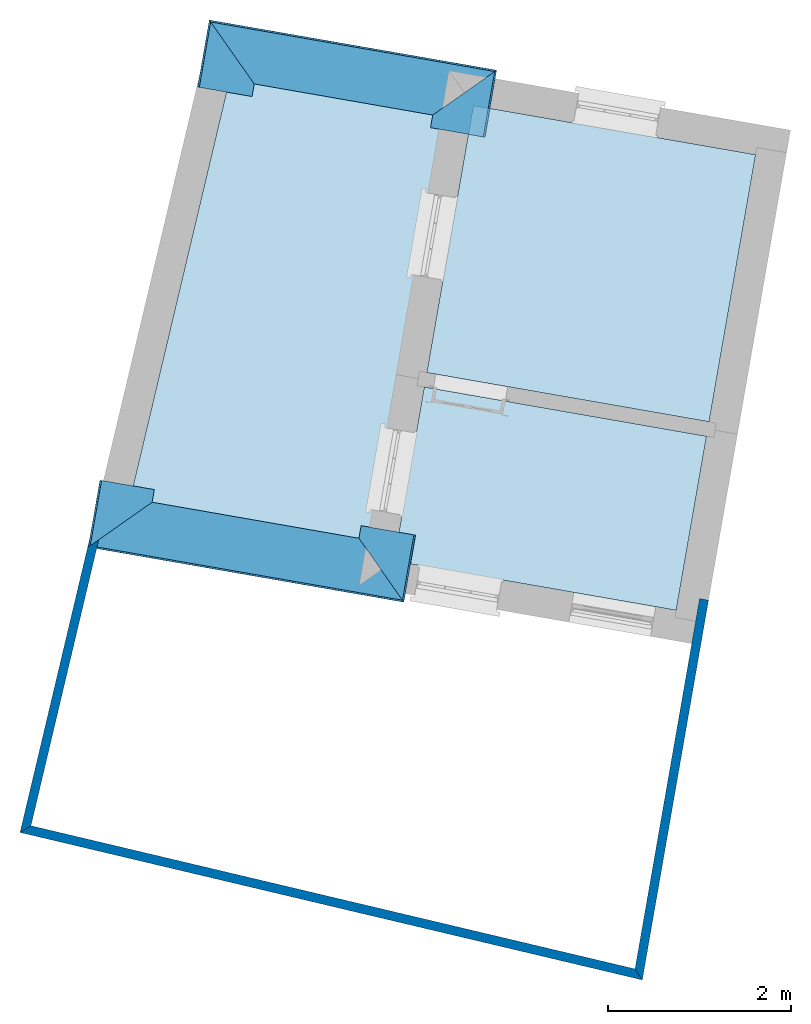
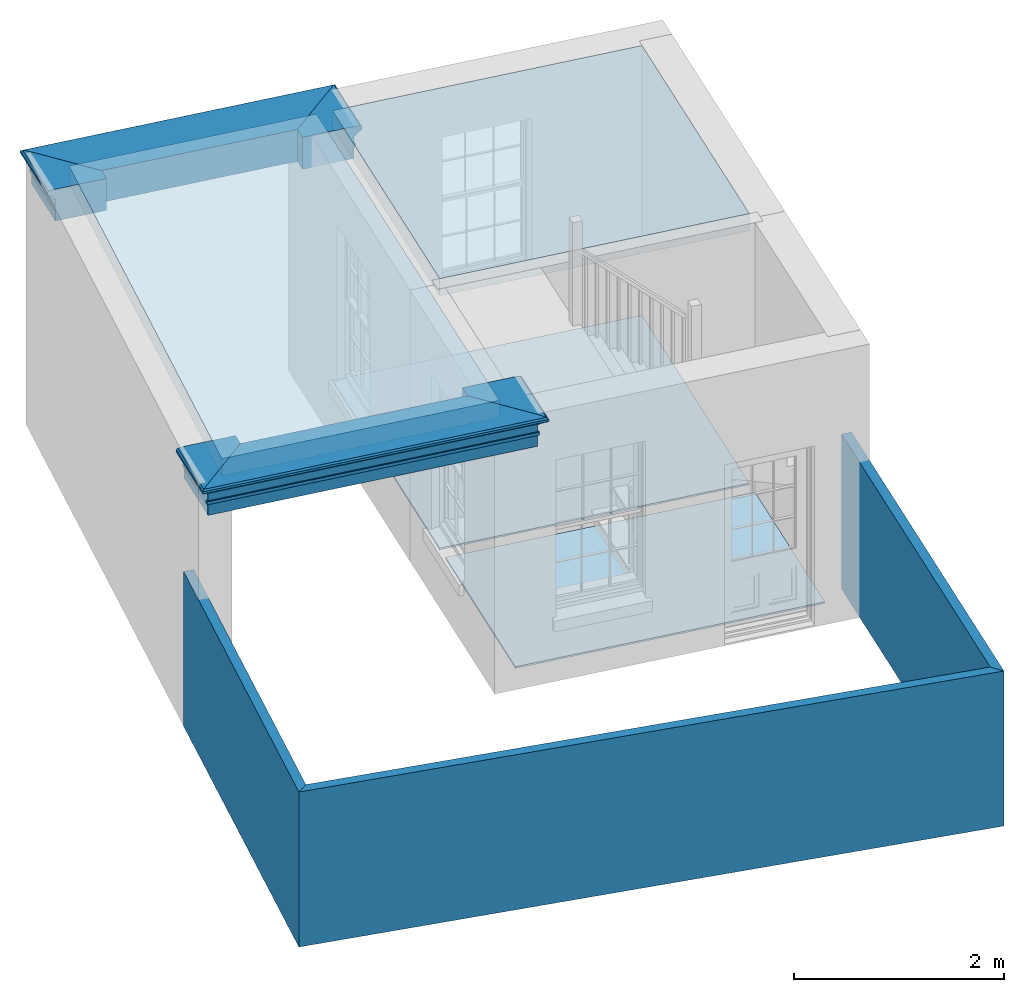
# One storey, part 1 of 4: 6 beams, 4 slabs, 3 walls.
"""IFC4 building model written with IfcOpenShell, lengths in metres."""

from ifc_helpers import new_model, si_unit, frame, origin_with_axes, place, context, subcontext, project, spatial, polyline, outline, extrude, clip, halfspace, material, layer, layer_set, layer_usage, material_profile, profile_set, profile_usage, type_object, element, save


model = new_model("IFC4")

# Units and contexts
model_context = context("Model", 3, world=origin_with_axes())
body_context = subcontext(model_context, "Body", "Model", "MODEL_VIEW")
ifc_project = project(units=[si_unit("PLANEANGLEUNIT", "RADIAN"), si_unit("MASSUNIT", "GRAM", prefix="KILO"), si_unit("FORCEUNIT", "NEWTON", prefix="KILO"), si_unit("LENGTHUNIT", "METRE"), si_unit("AREAUNIT", "SQUARE_METRE"), si_unit("VOLUMEUNIT", "CUBIC_METRE")], contexts=[model_context, model_context])

# Sites, building, storey
site_1_placement = place(None, origin_with_axes())
site_1 = spatial("IfcSite", under=ifc_project, at=site_1_placement, Name="Tamar")
site_2_placement = place(site_1_placement, origin_with_axes())
site_2 = spatial("IfcSite", under=site_1, at=site_2_placement, Name="Site plot-26", CompositionType="ELEMENT")
building_placement = place(None, origin_with_axes())
building = spatial("IfcBuilding", under=site_2, at=building_placement, Name="Building plot-26", CompositionType="ELEMENT")
storey_placement = place(None, frame((0.0, 0.0, 26.0), z_axis=(0.0, 0.0, 1.0), x_axis=(1.0, 0.0, 0.0)))
storey = spatial("IfcBuildingStorey", under=building, at=storey_placement, Name="plot-26 0", CompositionType="ELEMENT", Elevation=26.0)

# Beams
ifc_material_profile_1 = material_profile(None, outline(polyline([(-0.26, 0.0), (-0.26, -0.37), (0.26, -0.37), (0.26, -0.235), (0.275, -0.235), (0.275, -0.2), (0.26, -0.2), (0.26, -0.11), (0.275, -0.11), (0.278, -0.098), (0.284, -0.089), (0.293, -0.083), (0.305, -0.08), (0.305, -0.065), (0.315, -0.065), (0.326, -0.063), (0.336, -0.056), (0.343, -0.047), (0.345, -0.035), (0.343, -0.023), (0.336, -0.014), (0.326, -0.007), (0.315, -0.005), (0.26, 0.0), (-0.26, 0.0)])))
ifc_profile_set_1 = profile_set([ifc_material_profile_1])
ifc_profile_usage_1 = profile_usage(ifc_profile_set_1)
beam_type_1 = type_object("IfcBeamType", Name="external beam_0", PredefinedType="NOTDEFINED", material=ifc_profile_set_1)
beam_1_placement = place(storey_placement, frame((284.428171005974, 270.360319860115, 3.15), z_axis=(0.171788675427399, 0.985133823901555, 0.0), x_axis=(-0.985133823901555, 0.171788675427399, 0.0)))
element("IfcBeam", 1, at=beam_1_placement, inside=storey, type_object=beam_type_1, material=ifc_profile_usage_1, Name="external beam_0", context=body_context, shape_type="Clipping", body=[
    clip(clip(extrude(outline(polyline([(-0.26, 0.0), (-0.26, -0.37), (0.26, -0.37), (0.26, -0.235), (0.275, -0.235), (0.275, -0.2), (0.26, -0.2), (0.26, -0.11), (0.275, -0.11), (0.278, -0.098), (0.284, -0.089), (0.293, -0.083), (0.305, -0.08), (0.305, -0.065), (0.315, -0.065), (0.326, -0.063), (0.336, -0.056), (0.343, -0.047), (0.345, -0.035), (0.343, -0.023), (0.336, -0.014), (0.326, -0.007), (0.315, -0.005), (0.26, 0.0), (-0.26, 0.0)])), origin_with_axes(), (0.0, 0.0, 1.0), 2.39999999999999), halfspace(frame((0.0, 0.0, 1.39999999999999), z_axis=(2.21432281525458e-14, 0.0, -1.0), x_axis=(0.0, 1.0, 0.0)), True)), halfspace(frame((0.0, 0.0, 1.0), z_axis=(-0.707106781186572, 0.0, -0.707106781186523), x_axis=(0.0, 1.0, 0.0)), False)),
])
ifc_profile_usage_2 = profile_usage(ifc_profile_set_1)
beam_2_placement = place(storey_placement, frame((288.360380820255, 270.689707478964, 3.15), z_axis=(-0.985133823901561, 0.171788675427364, 0.0), x_axis=(-0.171788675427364, -0.985133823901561, 0.0)))
element("IfcBeam", 2, at=beam_2_placement, inside=storey, type_object=beam_type_1, material=ifc_profile_usage_2, Name="external beam_0", context=body_context, shape_type="Clipping", body=[
    clip(clip(extrude(outline(polyline([(-0.26, 0.0), (-0.26, -0.37), (0.26, -0.37), (0.26, -0.235), (0.275, -0.235), (0.275, -0.2), (0.26, -0.2), (0.26, -0.11), (0.275, -0.11), (0.278, -0.098), (0.284, -0.089), (0.293, -0.083), (0.305, -0.08), (0.305, -0.065), (0.315, -0.065), (0.326, -0.063), (0.336, -0.056), (0.343, -0.047), (0.345, -0.035), (0.343, -0.023), (0.336, -0.014), (0.326, -0.007), (0.315, -0.005), (0.26, 0.0), (-0.26, 0.0)])), origin_with_axes(), (0.0, 0.0, 1.0), 4.81716782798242), halfspace(frame((0.0, 0.0, 3.81716782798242), z_axis=(0.70710678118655, 0.0, -0.707106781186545), x_axis=(0.0, 1.0, 0.0)), True)), halfspace(frame((0.0, 0.0, 1.0), z_axis=(-0.707106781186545, 0.0, -0.70710678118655), x_axis=(0.0, 1.0, 0.0)), False)),
])
ifc_profile_usage_3 = profile_usage(ifc_profile_set_1)
beam_3_placement = place(storey_placement, frame((287.615751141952, 272.240683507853, 3.15), z_axis=(-0.171788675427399, -0.985133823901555, 0.0), x_axis=(0.985133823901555, -0.171788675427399, 0.0)))
element("IfcBeam", 3, at=beam_3_placement, inside=storey, type_object=beam_type_1, material=ifc_profile_usage_3, Name="external beam_0", context=body_context, shape_type="Clipping", body=[
    clip(clip(extrude(outline(polyline([(-0.26, 0.0), (-0.26, -0.37), (0.26, -0.37), (0.26, -0.235), (0.275, -0.235), (0.275, -0.2), (0.26, -0.2), (0.26, -0.11), (0.275, -0.11), (0.278, -0.098), (0.284, -0.089), (0.293, -0.083), (0.305, -0.08), (0.305, -0.065), (0.315, -0.065), (0.326, -0.063), (0.336, -0.056), (0.343, -0.047), (0.345, -0.035), (0.343, -0.023), (0.336, -0.014), (0.326, -0.007), (0.315, -0.005), (0.26, 0.0), (-0.26, 0.0)])), origin_with_axes(), (0.0, 0.0, 1.0), 2.39999999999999), halfspace(frame((0.0, 0.0, 1.39999999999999), z_axis=(0.707106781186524, 0.0, -0.707106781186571), x_axis=(0.0, 1.0, 0.0)), True)), halfspace(frame((0.0, 0.0, 1.0), z_axis=(2.30314065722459e-14, 0.0, -1.0), x_axis=(0.0, 1.0, 0.0)), False)),
])
ifc_material_profile_2 = material_profile(None, outline(polyline([(-0.26, 0.0), (-0.26, -0.37), (0.26, -0.37), (0.26, -0.235), (0.275, -0.235), (0.275, -0.2), (0.26, -0.2), (0.26, -0.11), (0.275, -0.11), (0.278, -0.098), (0.284, -0.089), (0.293, -0.083), (0.305, -0.08), (0.305, -0.065), (0.315, -0.065), (0.326, -0.063), (0.336, -0.056), (0.343, -0.047), (0.345, -0.035), (0.343, -0.023), (0.336, -0.014), (0.326, -0.007), (0.315, -0.005), (0.26, 0.0), (-0.26, 0.0)])))
ifc_profile_set_2 = profile_set([ifc_material_profile_2])
ifc_profile_usage_4 = profile_usage(ifc_profile_set_2)
beam_type_2 = type_object("IfcBeamType", Name="external beam_0", PredefinedType="NOTDEFINED", material=ifc_profile_set_2)
beam_4_placement = place(storey_placement, frame((288.444040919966, 276.990567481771, 3.15), z_axis=(-0.171788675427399, -0.985133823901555, 0.0), x_axis=(0.985133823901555, -0.171788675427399, 0.0)))
element("IfcBeam", 4, at=beam_4_placement, inside=storey, type_object=beam_type_2, material=ifc_profile_usage_4, Name="external beam_0", context=body_context, shape_type="Clipping", body=[
    clip(clip(extrude(outline(polyline([(-0.26, 0.0), (-0.26, -0.37), (0.26, -0.37), (0.26, -0.235), (0.275, -0.235), (0.275, -0.2), (0.26, -0.2), (0.26, -0.11), (0.275, -0.11), (0.278, -0.098), (0.284, -0.089), (0.293, -0.083), (0.305, -0.08), (0.305, -0.065), (0.315, -0.065), (0.326, -0.063), (0.336, -0.056), (0.343, -0.047), (0.345, -0.035), (0.343, -0.023), (0.336, -0.014), (0.326, -0.007), (0.315, -0.005), (0.26, 0.0), (-0.26, 0.0)])), origin_with_axes(), (0.0, 0.0, 1.0), 2.39999999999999), halfspace(frame((0.0, 0.0, 1.39999999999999), z_axis=(2.30314065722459e-14, 0.0, -1.0), x_axis=(0.0, 1.0, 0.0)), True)), halfspace(frame((0.0, 0.0, 1.0), z_axis=(-0.707106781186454, 0.0, -0.707106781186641), x_axis=(0.0, 1.0, 0.0)), False)),
])
ifc_profile_usage_5 = profile_usage(ifc_profile_set_2)
beam_5_placement = place(storey_placement, frame((284.821336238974, 276.607208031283, 3.15), z_axis=(0.985133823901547, -0.171788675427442, 0.0), x_axis=(0.171788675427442, 0.985133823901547, 0.0)))
element("IfcBeam", 5, at=beam_5_placement, inside=storey, type_object=beam_type_2, material=ifc_profile_usage_5, Name="external beam_0", context=body_context, shape_type="Clipping", body=[
    clip(clip(extrude(outline(polyline([(-0.26, 0.0), (-0.26, -0.37), (0.26, -0.37), (0.26, -0.235), (0.275, -0.235), (0.275, -0.2), (0.26, -0.2), (0.26, -0.11), (0.275, -0.11), (0.278, -0.098), (0.284, -0.089), (0.293, -0.083), (0.305, -0.08), (0.305, -0.065), (0.315, -0.065), (0.326, -0.063), (0.336, -0.056), (0.343, -0.047), (0.345, -0.035), (0.343, -0.023), (0.336, -0.014), (0.326, -0.007), (0.315, -0.005), (0.26, 0.0), (-0.26, 0.0)])), origin_with_axes(), (0.0, 0.0, 1.0), 4.50299210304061), halfspace(frame((0.0, 0.0, 3.50299210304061), z_axis=(0.70710678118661, 0.0, -0.707106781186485), x_axis=(0.0, 1.0, 0.0)), True)), halfspace(frame((0.0, 0.0, 1.0), z_axis=(-0.707106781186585, 0.0, -0.70710678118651), x_axis=(0.0, 1.0, 0.0)), False)),
])
ifc_profile_usage_6 = profile_usage(ifc_profile_set_2)
beam_6_placement = place(storey_placement, frame((285.565965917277, 275.056232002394, 3.15), z_axis=(0.171788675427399, 0.985133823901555, 0.0), x_axis=(-0.985133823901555, 0.171788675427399, 0.0)))
element("IfcBeam", 6, at=beam_6_placement, inside=storey, type_object=beam_type_2, material=ifc_profile_usage_6, Name="external beam_0", context=body_context, shape_type="Clipping", body=[
    clip(clip(extrude(outline(polyline([(-0.26, 0.0), (-0.26, -0.37), (0.26, -0.37), (0.26, -0.235), (0.275, -0.235), (0.275, -0.2), (0.26, -0.2), (0.26, -0.11), (0.275, -0.11), (0.278, -0.098), (0.284, -0.089), (0.293, -0.083), (0.305, -0.08), (0.305, -0.065), (0.315, -0.065), (0.326, -0.063), (0.336, -0.056), (0.343, -0.047), (0.345, -0.035), (0.343, -0.023), (0.336, -0.014), (0.326, -0.007), (0.315, -0.005), (0.26, 0.0), (-0.26, 0.0)])), origin_with_axes(), (0.0, 0.0, 1.0), 2.39999999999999), halfspace(frame((0.0, 0.0, 1.39999999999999), z_axis=(0.70710678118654, 0.0, -0.707106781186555), x_axis=(0.0, 1.0, 0.0)), True)), halfspace(frame((0.0, 0.0, 1.0), z_axis=(2.21432281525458e-14, 0.0, -1.0), x_axis=(0.0, 1.0, 0.0)), False)),
])

# Slabs
slab_1_placement = place(storey_placement, frame((285.788127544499, 276.357410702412, 2.95)))
element("IfcSlab", 7, at=slab_1_placement, inside=storey, Name="My Slab", ObjectType="Slab", PredefinedType="FLOOR", context=body_context, shape_type="SweptSolid", body=[
    extrude(outline(polyline([(0.0, 0.0), (-1.16954028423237, -4.933998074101), (1.60086254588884, -5.41710384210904), (2.47038160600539, -0.430787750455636), (0.0, 0.0)])), origin_with_axes(), (0.0, 0.0, 1.0), 0.2),
])
slab_2_placement = place(storey_placement, frame((287.878830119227, 272.817950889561, 0.0)))
element("IfcSlab", 8, at=slab_2_placement, inside=storey, Name="My Slab", ObjectType="Slab", PredefinedType="FLOOR", context=body_context, shape_type="SweptSolid", body=[
    extrude(outline(polyline([(0.0, 0.0), (-0.332218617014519, -1.90513021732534), (2.75733691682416, -2.44389017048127), (3.08955553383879, -0.5387599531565), (0.0, 0.0)])), origin_with_axes(), (0.0, 0.0, 1.0), 0.02),
])
slab_3_placement = place(storey_placement, frame((287.906316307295, 272.975572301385, 2.95)))
element("IfcSlab", 9, at=slab_3_placement, inside=storey, Name="My Slab", ObjectType="Slab", PredefinedType="FLOOR", context=body_context, shape_type="SweptSolid", body=[
    extrude(outline(polyline([(0.0, 0.0), (3.08955553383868, -0.538759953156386), (3.59936978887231, 2.3848045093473), (0.509814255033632, 2.92356446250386), (0.0, 0.0)])), origin_with_axes(), (0.0, 0.0, 1.0), 0.2),
])
slab_4_placement = place(storey_placement, frame((287.906316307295, 272.975572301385, 0.0)))
element("IfcSlab", 10, at=slab_4_placement, inside=storey, Name="My Slab", ObjectType="Slab", PredefinedType="FLOOR", context=body_context, shape_type="SweptSolid", body=[
    extrude(outline(polyline([(0.0, 0.0), (3.08955553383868, -0.538759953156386), (3.59936978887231, 2.3848045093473), (0.509814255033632, 2.92356446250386), (0.0, 0.0)])), origin_with_axes(), (0.0, 0.0, 1.0), 0.02),
])

# Walls
ifc_material = material(Name="Masonry")
ifc_layer = layer(ifc_material, 0.1, ventilated=False)
ifc_layer_set = layer_set([ifc_layer], Name="fence_-0.15_0.25")
ifc_layer_usage = layer_usage(ifc_layer_set, "AXIS2", "POSITIVE", -0.25)
wall_type = type_object("IfcWallType", Name="fence_-0.15_0.25", PredefinedType="SOLIDWALL", material=ifc_layer_set)
wall_1_placement = place(storey_placement, frame((284.521148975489, 271.359196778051, 0.0), z_axis=(0.0, 0.0, 1.0), x_axis=(-0.230645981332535, -0.973037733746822, 0.0)))
element("IfcWall", 11, at=wall_1_placement, inside=storey, type_object=wall_type, material=ifc_layer_usage, Name="fence", context=body_context, shape_type="SweptSolid", body=[
    extrude(outline(polyline([(-0.250000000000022, -0.150000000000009), (-0.25000000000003, -0.250000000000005), (3.57088204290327, -0.250000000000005), (3.47088204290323, -0.150000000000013), (-0.250000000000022, -0.150000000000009)])), origin_with_axes(), (0.0, 0.0, 1.0), 1.8),
])
wall_2_placement = place(storey_placement, frame((283.755200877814, 268.127853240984, 0.0), z_axis=(0.0, 0.0, 1.0), x_axis=(0.973037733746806, -0.230645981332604, 0.0)))
element("IfcWall", 12, at=wall_2_placement, inside=storey, type_object=wall_type, material=ifc_layer_usage, Name="fence", context=body_context, shape_type="SweptSolid", body=[
    extrude(outline(polyline([(-0.150000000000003, -0.150000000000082), (-0.249999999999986, -0.250000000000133), (6.74999999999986, -0.250000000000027), (6.6438022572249, -0.150000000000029), (-0.150000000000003, -0.150000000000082)])), origin_with_axes(), (0.0, 0.0, 1.0), 1.8),
])
wall_3_placement = place(storey_placement, frame((290.064869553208, 266.632228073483, 0.0), z_axis=(0.0, 0.0, 1.0), x_axis=(0.171788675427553, 0.985133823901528, 0.0)))
element("IfcWall", 13, at=wall_3_placement, inside=storey, type_object=wall_type, material=ifc_layer_usage, Name="fence", context=body_context, shape_type="SweptSolid", body=[
    extrude(outline(polyline([(-0.159296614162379, -0.149999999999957), (-0.265494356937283, -0.250000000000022), (3.95434834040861, -0.249999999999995), (3.95434834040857, -0.149999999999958), (-0.159296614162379, -0.149999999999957)])), origin_with_axes(), (0.0, 0.0, 1.0), 1.8),
])

save(model, "model.ifc")
